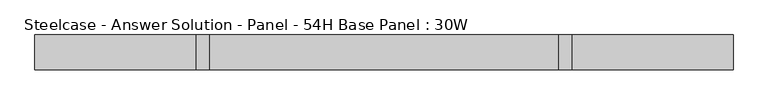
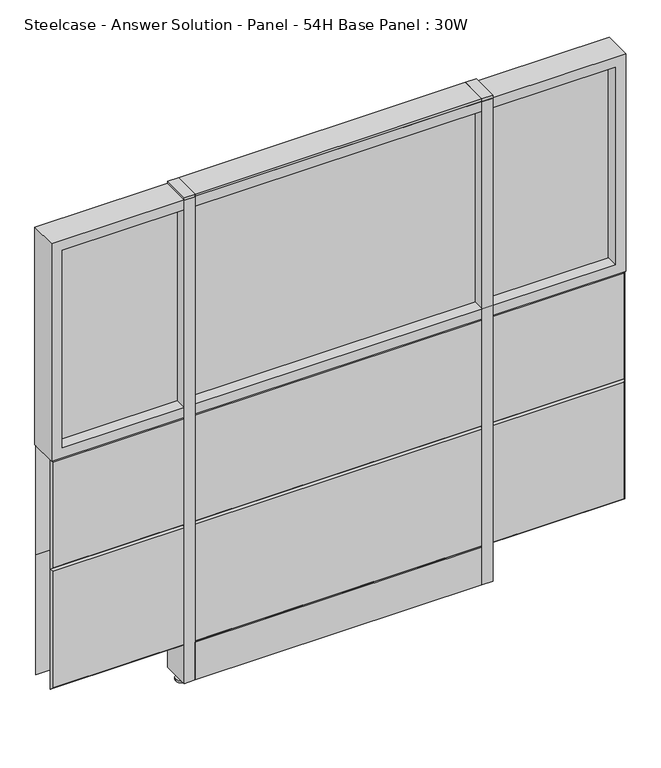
"""IFC4 building model written with IfcOpenShell, lengths in millimetres: furniture geometry, Steelcase - Answer Solution - Panel - 54H Base Panel : 30W."""

import ifcopenshell
import ifcopenshell.guid

model = None  # the IFC model being written
_history = None  # IfcOwnerHistory: only IFC2X3 demands one
_inside = {}  # id of a spatial element -> (the spatial element, [elements in it])
_under = {}  # id of a project, library or spatial element -> (it, [spatial elements below it])
_declared = {}  # id of a project -> (the project, [libraries it declares])
_typed = {}  # id of a type object -> (the type object, [elements of that type])
_made_of = {}  # id of a material, layer set ... -> (it, [elements and type objects made of it])


def new_model(schema):
    """Start an empty IFC model of exactly this schema.

    Asked for "IFC4X3", IfcOpenShell would pick the latest addendum, in which some entities
    have other attributes; the version numbers below select the first issue.
    IFC2X3 requires an IfcOwnerHistory on every rooted entity: one is made here for all.
    """
    global model, _history
    if schema == "IFC4X3":
        model = ifcopenshell.file(schema_version=(4, 3, 0, 0))
    else:
        model = ifcopenshell.file(schema=schema)
    _inside.clear()
    _under.clear()
    _declared.clear()
    _typed.clear()
    _made_of.clear()
    _history = None
    if model.schema == "IFC2X3":
        org = make("IfcOrganization", Name="unknown")
        user = make(
            "IfcPersonAndOrganization",
            ThePerson=make("IfcPerson", FamilyName="unknown"),
            TheOrganization=org,
        )
        app = make(
            "IfcApplication",
            ApplicationDeveloper=org,
            Version="unknown",
            ApplicationFullName="unknown",
            ApplicationIdentifier="unknown",
        )
        _history = make(
            "IfcOwnerHistory",
            OwningUser=user,
            OwningApplication=app,
            ChangeAction="ADDED",
            CreationDate=0,
        )
    return model


def make(cls, **values):
    """One entity of the class cls with the attributes given. An attribute that is None is left unset."""
    return model.create_entity(
        cls, **{name: value for name, value in values.items() if value is not None}
    )


def rooted(cls, **values):
    """An entity with a GlobalId (a new one), such as an element, a storey or a relation."""
    return make(cls, GlobalId=ifcopenshell.guid.new(), OwnerHistory=_history, **values)


def si_unit(unit_type, name, prefix=None):
    """IfcSIUnit, for example si_unit("LENGTHUNIT", "METRE", prefix="MILLI")."""
    return make("IfcSIUnit", UnitType=unit_type, Prefix=prefix, Name=name)


def assignment(units):
    """IfcUnitAssignment: the units of a project."""
    return None if units is None else make("IfcUnitAssignment", Units=units)


def point(xyz):
    """IfcCartesianPoint."""
    return None if xyz is None else make("IfcCartesianPoint", Coordinates=xyz)


def direction(xyz):
    """IfcDirection."""
    return None if xyz is None else make("IfcDirection", DirectionRatios=xyz)


def frame(location, z_axis=None, x_axis=None):
    """IfcAxis2Placement3D, a coordinate frame: its origin and axes. An axis left out is left unset."""
    return make(
        "IfcAxis2Placement3D",
        Location=point(location),
        Axis=direction(z_axis),
        RefDirection=direction(x_axis),
    )


def frame_2d(location, x_axis=None):
    """IfcAxis2Placement2D, a coordinate frame in the plane: its origin and x axis."""
    return make(
        "IfcAxis2Placement2D", Location=point(location), RefDirection=direction(x_axis)
    )


def origin():
    """The frame at (0, 0, 0) with its axes left unset."""
    return frame((0.0, 0.0, 0.0))


def place(relative_to, where):
    """IfcLocalPlacement: puts the frame where relative to a parent placement (None: the world)."""
    return make(
        "IfcLocalPlacement", PlacementRelTo=relative_to, RelativePlacement=where
    )


def context(
    kind, dimensions, precision=None, world=None, true_north=None, identifier=None
):
    """IfcGeometricRepresentationContext, for example the 3D "Model" context."""
    return make(
        "IfcGeometricRepresentationContext",
        ContextIdentifier=identifier,
        ContextType=kind,
        CoordinateSpaceDimension=dimensions,
        Precision=precision,
        WorldCoordinateSystem=world,
        TrueNorth=true_north,
    )


def project(units=None, contexts=None):
    """IfcProject with its units and contexts."""
    return rooted(
        "IfcProject",
        Name="project",
        RepresentationContexts=contexts,
        UnitsInContext=assignment(units),
    )


def spatial(cls, under=None, at=None, **own):
    """A site, building, storey or space (cls), placed at a placement, below another one or the project."""
    s = rooted(cls, ObjectPlacement=at, **own)
    if under is not None:
        _under.setdefault(under.id(), (under, []))[1].append(s)
    return s


def polyline(points):
    """IfcPolyline through the points."""
    return make("IfcPolyline", Points=[point(p) for p in points])


def circle_curve(where, radius):
    """IfcCircle in the frame where."""
    return make("IfcCircle", Position=where, Radius=radius)


def trimmed(basis, trim1, trim2, sense, master):
    """IfcTrimmedCurve: the piece of a basis curve between two trims."""
    return make(
        "IfcTrimmedCurve",
        BasisCurve=basis,
        Trim1=trim1,
        Trim2=trim2,
        SenseAgreement=sense,
        MasterRepresentation=master,
    )


def segment(curve, same_sense, transition):
    """IfcCompositeCurveSegment."""
    return make(
        "IfcCompositeCurveSegment",
        Transition=transition,
        SameSense=same_sense,
        ParentCurve=curve,
    )


def composite_curve(segments, self_intersect=None):
    """IfcCompositeCurve: segments joined end to end."""
    return make("IfcCompositeCurve", Segments=segments, SelfIntersect=self_intersect)


def outline(outer, holes=None, kind="AREA"):
    """IfcArbitraryClosedProfileDef: a profile drawn as a closed curve; with holes, ...WithVoids."""
    if holes is None:
        return make("IfcArbitraryClosedProfileDef", ProfileType=kind, OuterCurve=outer)
    return make(
        "IfcArbitraryProfileDefWithVoids",
        ProfileType=kind,
        OuterCurve=outer,
        InnerCurves=holes,
    )


def extrude(swept, where, along, depth):
    """IfcExtrudedAreaSolid: the profile swept, set in the frame where, extruded along a direction by depth."""
    return make(
        "IfcExtrudedAreaSolid",
        SweptArea=swept,
        Position=where,
        ExtrudedDirection=direction(along),
        Depth=depth,
    )


def faces_of(points, faces, orient=None, outer=None):
    """IfcFace entities. A face is a list of loops; a loop is a list of indices into points, from 0.

    orient and outer hold one flag for each loop. By default every Orientation is true, the
    first loop of a face is its IfcFaceOuterBound and the others are IfcFaceBound.
    """
    made = []
    for i, loops in enumerate(faces):
        bounds = []
        for j, loop in enumerate(loops):
            is_outer = j == 0 if outer is None else outer[i][j]
            bounds.append(
                make(
                    "IfcFaceOuterBound" if is_outer else "IfcFaceBound",
                    Bound=make("IfcPolyLoop", Polygon=[points[k] for k in loop]),
                    Orientation=True if orient is None else orient[i][j],
                )
            )
        made.append(make("IfcFace", Bounds=bounds))
    return made


def faceted_brep(points, faces, orient=None, outer=None, voids=None):
    """IfcFacetedBrep: a solid bounded by flat faces; with voids (closed shells), ...WithVoids."""
    shared = [point(p) for p in points]
    hull = make("IfcClosedShell", CfsFaces=faces_of(shared, faces, orient, outer))
    if voids is None:
        return make("IfcFacetedBrep", Outer=hull)
    return make(
        "IfcFacetedBrepWithVoids",
        Outer=hull,
        Voids=[
            make(cls, CfsFaces=faces_of(shared, fs, o, b)) for cls, fs, o, b in voids
        ],
    )


def shape(context_of_items, identifier, shape_type, items):
    """IfcShapeRepresentation: the items that make up one representation, for example the "Body"."""
    return make(
        "IfcShapeRepresentation",
        ContextOfItems=context_of_items,
        RepresentationIdentifier=identifier,
        RepresentationType=shape_type,
        Items=items,
    )


def source(mapping_origin, context_of_items, identifier, shape_type, items):
    """IfcRepresentationMap: a shape defined once, which mapped items show again and again."""
    return make(
        "IfcRepresentationMap",
        MappingOrigin=mapping_origin,
        MappedRepresentation=shape(context_of_items, identifier, shape_type, items),
    )


def transform(
    local_origin,
    x_axis=None,
    y_axis=None,
    z_axis=None,
    scale=None,
    scale2=None,
    scale3=None,
    uniform=True,
):
    """IfcCartesianTransformationOperator3D, or its non-uniform kind. x_axis, y_axis, z_axis: its Axis1, 2, 3."""
    if uniform:
        return make(
            "IfcCartesianTransformationOperator3D",
            Axis1=direction(x_axis),
            Axis2=direction(y_axis),
            LocalOrigin=point(local_origin),
            Scale=scale,
            Axis3=direction(z_axis),
        )
    return make(
        "IfcCartesianTransformationOperator3DnonUniform",
        Axis1=direction(x_axis),
        Axis2=direction(y_axis),
        LocalOrigin=point(local_origin),
        Scale=scale,
        Axis3=direction(z_axis),
        Scale2=scale2,
        Scale3=scale3,
    )


def mapped(mapping_source, mapping_target):
    """IfcMappedItem: shows the shape of a source again, moved by a transform."""
    return make(
        "IfcMappedItem", MappingSource=mapping_source, MappingTarget=mapping_target
    )


def made_of(thing, what):
    """Note that an element or type object is made of a material, layer set ...; save() writes the relation."""
    if what is not None:
        _made_of.setdefault(what.id(), (what, []))[1].append(thing)
    return thing


def element(
    cls,
    number,
    at=None,
    inside=None,
    cuts=None,
    type_object=None,
    material=None,
    context=None,
    identifier="Body",
    shape_type=None,
    held_by="IfcProductDefinitionShape",
    body=None,
    shapes=None,
    **own,
):
    """One element of the class cls, such as IfcWall. Its Tag is "e" and its number.

    at: its placement. inside: the storey or other place that contains it. cuts: it is an
    opening in that element (IfcRelVoidsElement). A single representation is given by context,
    identifier, shape_type and body (its items); several are given by shapes. held_by: the class
    of the entity that holds the representations. save() writes the other relations.
    """
    e = rooted(cls, Tag="e%d" % number, ObjectPlacement=at, **own)
    if body is not None:
        shapes = [shape(context, identifier, shape_type, body)]
    if shapes is not None:
        e.Representation = make(held_by, Representations=shapes)
    if inside is not None:
        _inside.setdefault(inside.id(), (inside, []))[1].append(e)
    if cuts is not None:
        rooted(
            "IfcRelVoidsElement", RelatingBuildingElement=cuts, RelatedOpeningElement=e
        )
    if type_object is not None:
        _typed.setdefault(type_object.id(), (type_object, []))[1].append(e)
    return made_of(e, material)


def aggregate(whole, parts):
    """IfcRelAggregates: a whole, such as a stair, and the parts it consists of."""
    return rooted("IfcRelAggregates", RelatingObject=whole, RelatedObjects=parts)


def save(model, path):
    """Write the relations noted so far, then the file.

    IfcRelAggregates (storeys below a building ...), IfcRelContainedInSpatialStructure (elements
    in a storey), IfcRelDefinesByType, IfcRelAssociatesMaterial and IfcRelDeclares: one each for
    every whole, place, type object, material and project.
    """
    for whole, parts in _under.values():
        aggregate(whole, parts)
    for where, things in _inside.values():
        rooted(
            "IfcRelContainedInSpatialStructure",
            RelatedElements=things,
            RelatingStructure=where,
        )
    for kind, things in _typed.values():
        rooted("IfcRelDefinesByType", RelatedObjects=things, RelatingType=kind)
    for what, things in _made_of.values():
        rooted("IfcRelAssociatesMaterial", RelatedObjects=things, RelatingMaterial=what)
    for by, libraries in _declared.values():
        rooted("IfcRelDeclares", RelatingContext=by, RelatedDefinitions=libraries)
    model.write(path)


def steelcase_answer_solution_panel_54h_base_panel_30w_f4f0f83b(model_context):
    return source(origin(), model_context, "Body", "SolidModel", [
        extrude(outline(composite_curve([segment(trimmed(circle_curve(frame_2d((395.224, 0.0320214)), 5.08), [point((400.304, 0.0320214))], [point((390.144, 0.0320214))], False, "CARTESIAN"), True, "CONTINUOUS"), segment(trimmed(circle_curve(frame_2d((395.224, 0.0320214)), 5.08), [point((390.144, 0.0320214))], [point((400.304, 0.0320214))], False, "CARTESIAN"), True, "CONTINUOUS")], self_intersect=False)), frame((0.0, 0.0, 5.0799671), z_axis=(0.0, 0.0, 1.0), x_axis=(1.0, 0.0, 0.0)), (0.0, 0.0, 1.0), 10.414),
        extrude(outline(composite_curve([segment(trimmed(circle_curve(frame_2d((395.224, 0.0320214)), 15.24), [point((410.464, 0.0320214))], [point((379.984, 0.0320214))], False, "CARTESIAN"), True, "CONTINUOUS"), segment(trimmed(circle_curve(frame_2d((395.224, 0.0320214)), 15.24), [point((379.984, 0.0320214))], [point((410.464, 0.0320214))], False, "CARTESIAN"), True, "CONTINUOUS")], self_intersect=False)), frame((0.0, 0.0, -3.29e-05), z_axis=(0.0, 0.0, 1.0), x_axis=(1.0, 0.0, 0.0)), (0.0, 0.0, 1.0), 5.08),
        extrude(outline(polyline([(409.575, 38.1320408), (409.575, -38.0679592), (381.0, -38.0679592), (381.0, 38.1320408), (409.575, 38.1320408)])), frame((0.0, 0.0, 1370.6348), z_axis=(0.0, 0.0, 1.0), x_axis=(1.0, 0.0, 0.0)), (0.0, 0.0, 1.0), 7.3151671),
        extrude(outline(polyline([(409.575, 38.1320408), (409.575, -38.0679592), (381.0, -38.0679592), (381.0, 38.1320408), (409.575, 38.1320408)])), frame((0.0, 0.0, 15.4939671), z_axis=(0.0, 0.0, 1.0), x_axis=(1.0, 0.0, 0.0)), (0.0, 0.0, 1.0), 1355.1408329),
        extrude(outline(composite_curve([segment(trimmed(circle_curve(frame_2d((-395.224, 0.0320214)), 5.08), [point((-400.304, 0.0320214))], [point((-390.144, 0.0320214))], False, "CARTESIAN"), True, "CONTINUOUS"), segment(trimmed(circle_curve(frame_2d((-395.224, 0.0320214)), 5.08), [point((-390.144, 0.0320214))], [point((-400.304, 0.0320214))], False, "CARTESIAN"), True, "CONTINUOUS")], self_intersect=False)), frame((0.0, 0.0, 5.0799671), z_axis=(0.0, 0.0, 1.0), x_axis=(1.0, 0.0, 0.0)), (0.0, 0.0, 1.0), 10.414),
        extrude(outline(composite_curve([segment(trimmed(circle_curve(frame_2d((-395.224, 0.0320214)), 15.24), [point((-410.464, 0.0320214))], [point((-379.984, 0.0320214))], False, "CARTESIAN"), True, "CONTINUOUS"), segment(trimmed(circle_curve(frame_2d((-395.224, 0.0320214)), 15.24), [point((-379.984, 0.0320214))], [point((-410.464, 0.0320214))], False, "CARTESIAN"), True, "CONTINUOUS")], self_intersect=False)), frame((0.0, 0.0, -3.29e-05), z_axis=(0.0, 0.0, 1.0), x_axis=(1.0, 0.0, 0.0)), (0.0, 0.0, 1.0), 5.08),
        extrude(outline(polyline([(-409.575, 38.1320408), (-381.0, 38.1320408), (-381.0, -38.0679592), (-409.575, -38.0679592), (-409.575, 38.1320408)])), frame((0.0, 0.0, 1370.6348), z_axis=(0.0, 0.0, 1.0), x_axis=(1.0, 0.0, 0.0)), (0.0, 0.0, 1.0), 7.3151671),
        extrude(outline(polyline([(-409.575, 38.1320408), (-381.0, 38.1320408), (-381.0, -38.0679592), (-409.575, -38.0679592), (-409.575, 38.1320408)])), frame((0.0, 0.0, 15.4939671), z_axis=(0.0, 0.0, 1.0), x_axis=(1.0, 0.0, 0.0)), (0.0, 0.0, 1.0), 1355.1408329),
        extrude(outline(polyline([(-734.06, 6.346049), (734.06, 6.346049), (734.06, -6.353951), (-734.06, -6.353951), (-734.06, 6.346049)])), frame((0.0, 0.0, 789.94), z_axis=(0.0, 0.0, 1.0), x_axis=(1.0, 0.0, 0.0)), (0.0, 0.0, 1.0), 553.72),
        extrude(outline(polyline([(1371.6, -762.0), (762.0, -762.0), (762.0, 762.0), (1371.6, 762.0), (1371.6, -762.0)]), holes=[polyline([(1343.66, -734.06), (1343.66, 734.06), (789.94, 734.06), (789.94, -734.06), (1343.66, -734.06)])]), frame((0.0, -38.103951, 0.0), z_axis=(0.0, 1.0, 0.0), x_axis=(0.0, 0.0, 1.0)), (0.0, 0.0, 1.0), 76.2),
        faceted_brep([(-757.174, 38.1635011, 757.174), (757.174, 38.1635011, 757.174), (757.174, 38.1635011, 462.026), (-757.174, 38.1635011, 462.026), (-762.0, 33.3375011, 762.0), (-762.0, 33.3375011, 457.2), (762.0, 33.3375011, 457.2), (762.0, 33.3375011, 762.0)], [[[0, 1, 2, 3]], [[4, 5, 6, 7]], [[4, 7, 1, 0]], [[7, 6, 2, 1]], [[6, 5, 3, 2]], [[5, 4, 0, 3]]]),
        faceted_brep([(-757.174, 38.1635011, 452.374), (757.174, 38.1635011, 452.374), (757.174, 38.1635011, 125.476), (-757.174, 38.1635011, 125.476), (-762.0, 33.3375011, 457.2), (-762.0, 33.3375011, 120.65), (762.0, 33.3375011, 120.65), (762.0, 33.3375011, 457.2)], [[[0, 1, 2, 3]], [[4, 5, 6, 7]], [[4, 7, 1, 0]], [[7, 6, 2, 1]], [[6, 5, 3, 2]], [[5, 4, 0, 3]]]),
        extrude(outline(polyline([(734.06, -6.346049), (-734.06, -6.346049), (-734.06, 6.353951), (734.06, 6.353951), (734.06, -6.346049)])), frame((0.0, 0.0, 789.94), z_axis=(0.0, 0.0, 1.0), x_axis=(1.0, 0.0, 0.0)), (0.0, 0.0, 1.0), 553.72),
        extrude(outline(polyline([(1371.6, 762.0), (1371.6, -762.0), (762.0, -762.0), (762.0, 762.0), (1371.6, 762.0)]), holes=[polyline([(1343.66, 734.06), (789.94, 734.06), (789.94, -734.06), (1343.66, -734.06), (1343.66, 734.06)])]), frame((0.0, -38.096049, 0.0), z_axis=(0.0, 1.0, 0.0), x_axis=(0.0, 0.0, 1.0)), (0.0, 0.0, 1.0), 76.2),
        faceted_brep([(757.174, -38.1635011, 757.174), (-757.174, -38.1635011, 757.174), (-757.174, -38.1635011, 462.026), (757.174, -38.1635011, 462.026), (762.0, -33.3375011, 762.0), (762.0, -33.3375011, 457.2), (-762.0, -33.3375011, 457.2), (-762.0, -33.3375011, 762.0)], [[[0, 1, 2, 3]], [[4, 5, 6, 7]], [[4, 7, 1, 0]], [[7, 6, 2, 1]], [[6, 5, 3, 2]], [[5, 4, 0, 3]]]),
        faceted_brep([(757.174, -38.1635011, 452.374), (-757.174, -38.1635011, 452.374), (-757.174, -38.1635011, 125.476), (757.174, -38.1635011, 125.476), (762.0, -33.3375011, 457.2), (762.0, -33.3375011, 120.65), (-762.0, -33.3375011, 120.65), (-762.0, -33.3375011, 457.2)], [[[0, 1, 2, 3]], [[4, 5, 6, 7]], [[4, 7, 1, 0]], [[7, 6, 2, 1]], [[6, 5, 3, 2]], [[5, 4, 0, 3]]]),
        extrude(outline(polyline([(381.0, 38.1000194), (381.0, -38.1000194), (-381.0, -38.1000194), (-381.0, 38.1000194), (381.0, 38.1000194)])), frame((0.0, 0.0, 1371.6), z_axis=(0.0, 0.0, 1.0), x_axis=(1.0, 0.0, 0.0)), (0.0, 0.0, 1.0), 6.35),
        extrude(outline(polyline([(25.4000011, 119.8575157), (25.4000011, 120.65), (38.1000194, 120.65), (38.1000194, 15.494), (37.3075215, 15.494), (37.3075215, 119.8575157), (25.4000011, 119.8575157)])), frame((-381.0, 0.0, 0.0), z_axis=(1.0, 0.0, 0.0), x_axis=(0.0, 1.0, 0.0)), (0.0, 0.0, 1.0), 762.0),
        extrude(outline(polyline([(-25.4000011, 119.8575157), (-37.3075215, 119.8575157), (-37.3075215, 15.494), (-38.1000194, 15.494), (-38.1000194, 120.65), (-25.4000011, 120.65), (-25.4000011, 119.8575157)])), frame((-381.0, 0.0, 0.0), z_axis=(1.0, 0.0, 0.0), x_axis=(0.0, 1.0, 0.0)), (0.0, 0.0, 1.0), 762.0),
    ])


if __name__ == "__main__":
    model = new_model("IFC4")
    model_context = context("Model", 3, world=origin())
    ifc_project = project(units=[si_unit("LENGTHUNIT", "METRE", prefix="MILLI")], contexts=[model_context])
    site = spatial("IfcSite", under=ifc_project)
    building = spatial("IfcBuilding", under=site)
    placement = place(None, origin())
    steelcase_answer_solution_panel_54h_base_panel_30w_shape = steelcase_answer_solution_panel_54h_base_panel_30w_f4f0f83b(model_context)
    element("IfcFurniture", 1, ObjectType="Steelcase - Answer Solution - Panel - 54H Base Panel : 30W", at=placement, inside=building, context=model_context, shape_type="MappedRepresentation", body=[
        mapped(steelcase_answer_solution_panel_54h_base_panel_30w_shape, transform((0.0, 0.0, 0.0), x_axis=(1.0, 0.0, 0.0), y_axis=(0.0, 1.0, 0.0), z_axis=(0.0, 0.0, 1.0))),
    ])
    save(model, "model.ifc")
